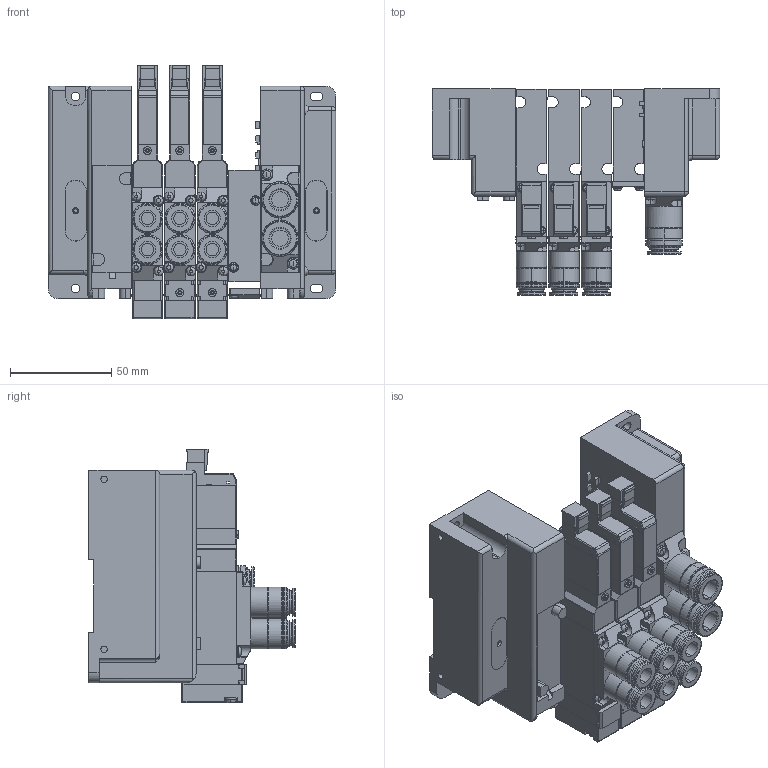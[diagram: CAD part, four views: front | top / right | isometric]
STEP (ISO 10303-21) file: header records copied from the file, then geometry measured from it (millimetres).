
FILE_DESCRIPTION( (''), '2;1');
FILE_NAME ('CVICAD02.4348.F15M4XN-JR_21357.stp','2021-07-12T19:12:16',(''),(''),'spGate 12.6.6','','');
FILE_SCHEMA (('AUTOMOTIVE_DESIGN'));
Length unit declared in the file: millimetre
Products named in the file (22): Assembly; CVICAD02-asm1; CVICAD02-asm2; CVICAD02-prt11; CVICAD02-asm3; CVICAD02-asm4; CVICAD02-prt15; CVICAD02-prt16; CVICAD02-prt3; CVICAD02-prt4; CVICAD02-prt5; CVICAD02-prt6; CVICAD02-prt7; CVICAD02-prt8; CVICAD02-prt9; CVICAD02-prt10; CVICAD02-prt12; Y029261_キャップ(DINねじ穴用)_20190809; CVICAD02-prt14
Assembly tree (37 placements, depth 3):
  Assembly
    (unnamed)  x4
    (unnamed)
    (unnamed)  x3
    CVICAD02-asm1
      CVICAD02-prt3
      CVICAD02-prt4
      CVICAD02-prt5
      CVICAD02-prt6
      CVICAD02-prt7
      CVICAD02-prt8
      CVICAD02-prt9
    CVICAD02-asm2  x2
      CVICAD02-prt3
      CVICAD02-prt4
      CVICAD02-prt5
      CVICAD02-prt7
      CVICAD02-prt8
      CVICAD02-prt10
      CVICAD02-prt9
    CVICAD02-prt11
    CVICAD02-asm3
      CVICAD02-prt12
      Y029261_キャップ(DINねじ穴用)_20190809
    CVICAD02-asm4
      Y029261_キャップ(DINねじ穴用)_20190809
      CVICAD02-prt14
    CVICAD02-prt15  x4
    CVICAD02-prt16
Bounding box: 142 x 102.1 x 125.5 mm (x, y, z)
Volume: 505628 mm3; surface area: 130225.9 mm2
Topology: 31 solids, 31 shells, 2094 faces, 5263 edges, 3338 vertices
Faces by surface type: plane 1107, cylinder 687, bspline 274, sphere 26
Entity records: 58535 total; most frequent: CARTESIAN_POINT 8485, ORIENTED_EDGE 5670, DIRECTION 5390, COLOUR_RGB 3977, PRESENTATION_STYLE_ASSIGNMENT 3977, STYLED_ITEM 3977, EDGE_CURVE 2835, DRAUGHTING_PRE_DEFINED_CURVE_FONT 2835
